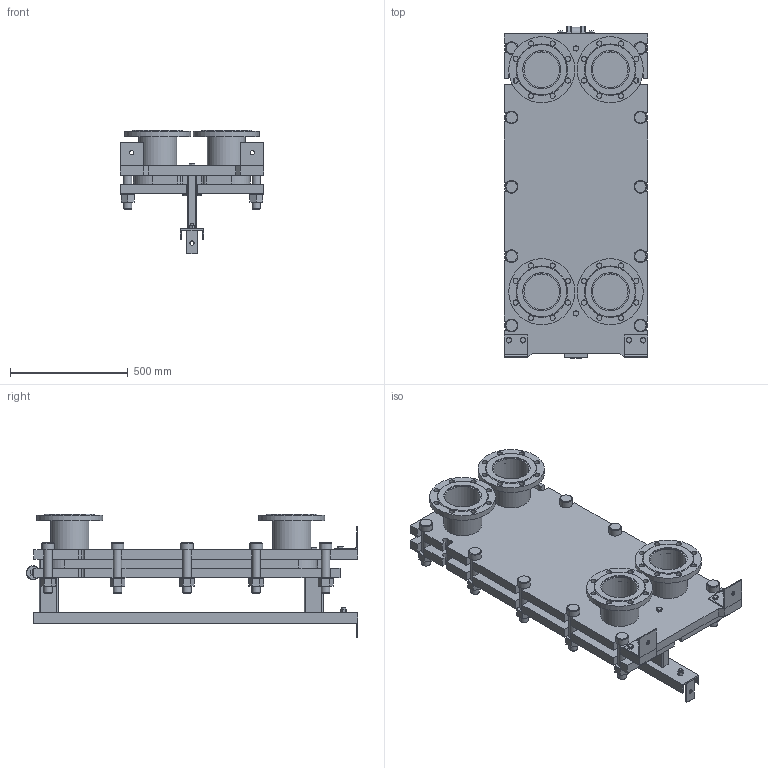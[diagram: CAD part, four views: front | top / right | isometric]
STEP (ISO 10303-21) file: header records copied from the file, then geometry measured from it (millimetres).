
FILE_DESCRIPTION(/* description */ (''),/* implementation_level */ '2;1');
FILE_NAME(/* name */ 'C:\Users\zhuro\Desktop\ENCO\TO\ЭН-041\ЭН-0,5-041-11-1.stp',/* time_stamp */ '2022-06-06T10:48:45+03:00',/* author */ ('zhuro'),/* organization */ (''),/* preprocessor_version */ 'ST-DEVELOPER v18.1',/* originating_system */ 'Autodesk Inventor 2022',/* authorisation */ '');
FILE_SCHEMA (('AUTOMOTIVE_DESIGN { 1 0 10303 214 3 1 1 }'));
Length unit declared in the file: millimetre
Products named in the file (1): ЭН-0,5-041-11-1
Bounding box: 610 x 1406.5 x 522.5 mm (x, y, z)
Volume: 95563388.9 mm3; surface area: 7062134.1 mm2
Topology: 52 solids, 52 shells, 711 faces, 1696 edges, 1094 vertices
Faces by surface type: plane 487, cylinder 177, cone 41, torus 6
Full cylindrical faces by diameter (mm): 8 x4, 10 x2, 16 x8, 18 x3, 22 x32, 36 x24, 50 x1, 54 x10, 60 x12, 151 x4, 161 x8, 280 x4
Entity records: 22667 total; most frequent: CARTESIAN_POINT 5230, DIRECTION 3644, ORIENTED_EDGE 3392, EDGE_CURVE 1696, AXIS2_PLACEMENT_3D 1272, LINE 1100, VECTOR 1100, VERTEX_POINT 1094
